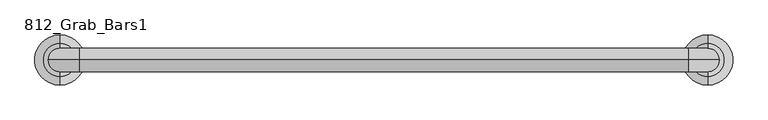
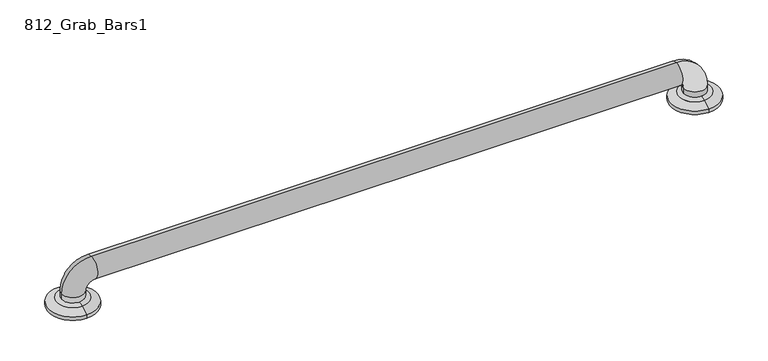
"""IFC4 building model written with IfcOpenShell, lengths in millimetres: proxy geometry, 812_Grab_Bars1 : 8122-001420."""

from ifc_helpers import new_model, si_unit, point, frame, origin, place, context, project, spatial, polyline, circle_curve, ellipse_curve, trimmed, source, transform, mapped, element, save
from ifc_brep_helpers import plane_surface, cylinder_surface, revolved_surface, advanced_brep


def proxy_812_grab_bars1_ef4de83a(model_context):
    return source(origin(), model_context, "Body", "AdvancedBrep", [
        advanced_brep(
        [(-477.8375, 564.1630987, 13.1934507), (-477.8375, 577.85, 6.35), (-477.8375, 495.3, 6.35), (-477.8375, 508.9869013, 13.1934507), (-477.8375, 517.525, 15.7178454), (-496.8875, 536.575, 15.7178454), (-477.8375, 555.625, 15.7178454), (-458.7875, 536.575, 15.7178454), (-477.8375, 577.85, 0.0), (-477.8375, 555.625, 0.0), (-477.8375, 536.575, 0.0), (-477.8375, 517.525, 0.0), (-477.8375, 495.3, 0.0), (-496.8875, 536.575, 25.4), (-458.7875, 536.575, 25.4), (-446.0875, 536.575, 38.1), (-446.0875, 536.575, 76.2), (557.2125, 536.575, 38.1), (557.2125, 536.575, 76.2), (569.9125, 536.575, 25.4), (608.0125, 536.575, 25.4), (588.9625, 577.85, 0.0), (588.9625, 495.3, 0.0), (569.9125, 536.575, 15.7178454), (588.9625, 517.525, 15.7178454), (608.0125, 536.575, 15.7178454), (588.9625, 555.625, 15.7178454), (588.9625, 564.1630987, 13.1934507), (588.9625, 577.85, 6.35), (588.9625, 495.3, 6.35), (588.9625, 508.9869013, 13.1934507)],
        [
            (0, 1),
            (1, 2, circle_curve(frame((-477.8375, 536.575, 6.35), z_axis=(0.0, 0.0, 1.0), x_axis=(0.0, -1.0, 0.0)), 41.275)),
            (2, 3),
            (3, 0, circle_curve(frame((-477.8375, 536.575, 13.1934507), z_axis=(0.0, 0.0, -1.0), x_axis=(0.0, -1.0, 0.0)), 27.5880987)),
            (2, 1, circle_curve(frame((-477.8375, 536.575, 6.35), z_axis=(0.0, 0.0, 1.0), x_axis=(0.0, -1.0, 0.0)), 41.275)),
            (0, 3, circle_curve(frame((-477.8375, 536.575, 13.1934507), z_axis=(0.0, 0.0, -1.0), x_axis=(0.0, -1.0, 0.0)), 27.5880987)),
            (3, 4, circle_curve(frame((-477.8375, 520.3461266, -9.525), z_axis=(-1.0, 0.0, 0.0), x_axis=(0.0, 0.0, -1.0)), 25.4)),
            (4, 5, circle_curve(frame((-477.8375, 536.575, 15.7178454), z_axis=(0.0, 0.0, -1.0), x_axis=(0.0, -1.0, 0.0)), 19.05)),
            (5, 6, circle_curve(frame((-477.8375, 536.575, 15.7178454), z_axis=(0.0, 0.0, -1.0), x_axis=(0.0, -1.0, 0.0)), 19.05)),
            (6, 0, circle_curve(frame((-477.8375, 552.8038734, -9.525), z_axis=(-1.0, 0.0, 0.0), x_axis=(0.0, 0.0, -1.0)), 25.4)),
            (6, 7, circle_curve(frame((-477.8375, 536.575, 15.7178454), z_axis=(0.0, 0.0, -1.0), x_axis=(0.0, -1.0, 0.0)), 19.05)),
            (7, 4, circle_curve(frame((-477.8375, 536.575, 15.7178454), z_axis=(0.0, 0.0, -1.0), x_axis=(0.0, -1.0, 0.0)), 19.05)),
            (8, 9),
            (9, 10),
            (10, 11),
            (11, 12),
            (12, 8, circle_curve(frame((-477.8375, 536.575, 0.0), z_axis=(0.0, 0.0, -1.0), x_axis=(0.0, -1.0, 0.0)), 41.275)),
            (8, 12, circle_curve(frame((-477.8375, 536.575, 0.0), z_axis=(0.0, 0.0, -1.0), x_axis=(0.0, -1.0, 0.0)), 41.275)),
            (1, 8),
            (12, 2),
            (13, 5),
            (7, 14),
            (14, 13, circle_curve(frame((-477.8375, 536.575, 25.4), z_axis=(0.0, 0.0, -1.0), x_axis=(1.0, 0.0, 0.0)), 19.05)),
            (13, 14, circle_curve(frame((-477.8375, 536.575, 25.4), z_axis=(0.0, 0.0, -1.0), x_axis=(1.0, 0.0, 0.0)), 19.05)),
            (14, 15, circle_curve(frame((-446.0875, 536.575, 25.4), z_axis=(0.0, 1.0, 0.0), x_axis=(-1.0, 0.0, 0.0)), 12.7)),
            (15, 16, circle_curve(frame((-446.0875, 536.575, 57.15), z_axis=(-1.0, 0.0, 0.0), x_axis=(0.0, 0.0, -1.0)), 19.05)),
            (16, 13, circle_curve(frame((-446.0875, 536.575, 25.4), z_axis=(0.0, -1.0, 0.0), x_axis=(-1.0, 0.0, 0.0)), 50.8)),
            (16, 15, circle_curve(frame((-446.0875, 536.575, 57.15), z_axis=(-1.0, 0.0, 0.0), x_axis=(0.0, 0.0, -1.0)), 19.05)),
            (15, 17),
            (17, 18, circle_curve(frame((557.2125, 536.575, 57.15), z_axis=(-1.0, 0.0, 0.0), x_axis=(0.0, 0.0, -1.0)), 19.05)),
            (18, 16),
            (18, 17, circle_curve(frame((557.2125, 536.575, 57.15), z_axis=(-1.0, 0.0, 0.0), x_axis=(0.0, 0.0, -1.0)), 19.05)),
            (17, 19, circle_curve(frame((557.2125, 536.575, 25.4), z_axis=(0.0, 1.0, 0.0), x_axis=(0.0, 0.0, 1.0)), 12.7)),
            (19, 20, circle_curve(frame((588.9625, 536.575, 25.4), z_axis=(0.0, 0.0, 1.0), x_axis=(-1.0, 0.0, 0.0)), 19.05)),
            (20, 18, circle_curve(frame((557.2125, 536.575, 25.4), z_axis=(0.0, -1.0, 0.0), x_axis=(0.0, 0.0, 1.0)), 50.8)),
            (20, 19, circle_curve(frame((588.9625, 536.575, 25.4), z_axis=(0.0, 0.0, 1.0), x_axis=(-1.0, 0.0, 0.0)), 19.05)),
            (21, 22, circle_curve(frame((588.9625, 536.575, 0.0), z_axis=(0.0, 0.0, -1.0), x_axis=(0.0, -1.0, 0.0)), 41.275)),
            (22, 21, circle_curve(frame((588.9625, 536.575, 0.0), z_axis=(0.0, 0.0, -1.0), x_axis=(0.0, -1.0, 0.0)), 41.275)),
            (19, 23),
            (23, 24, circle_curve(frame((588.9625, 536.575, 15.7178454), z_axis=(0.0, 0.0, 1.0), x_axis=(-1.0, 0.0, 0.0)), 19.05)),
            (24, 25, circle_curve(frame((588.9625, 536.575, 15.7178454), z_axis=(0.0, 0.0, 1.0), x_axis=(-1.0, 0.0, 0.0)), 19.05)),
            (25, 20),
            (25, 26, circle_curve(frame((588.9625, 536.575, 15.7178454), z_axis=(0.0, 0.0, 1.0), x_axis=(-1.0, 0.0, 0.0)), 19.05)),
            (26, 23, circle_curve(frame((588.9625, 536.575, 15.7178454), z_axis=(0.0, 0.0, 1.0), x_axis=(-1.0, 0.0, 0.0)), 19.05)),
            (27, 28),
            (28, 29, circle_curve(frame((588.9625, 536.575, 6.35), z_axis=(0.0, 0.0, 1.0), x_axis=(0.0, -1.0, 0.0)), 41.275)),
            (29, 30),
            (30, 27, circle_curve(frame((588.9625, 536.575, 13.1934507), z_axis=(0.0, 0.0, -1.0), x_axis=(0.0, -1.0, 0.0)), 27.5880987)),
            (29, 28, circle_curve(frame((588.9625, 536.575, 6.35), z_axis=(0.0, 0.0, 1.0), x_axis=(0.0, -1.0, 0.0)), 41.275)),
            (27, 30, circle_curve(frame((588.9625, 536.575, 13.1934507), z_axis=(0.0, 0.0, -1.0), x_axis=(0.0, -1.0, 0.0)), 27.5880987)),
            (30, 24, circle_curve(frame((588.9625, 520.3461266, -9.525), z_axis=(-1.0, 0.0, 0.0), x_axis=(0.0, 0.0, -1.0)), 25.4)),
            (26, 27, circle_curve(frame((588.9625, 552.8038734, -9.525), z_axis=(-1.0, 0.0, 0.0), x_axis=(0.0, 0.0, -1.0)), 25.4)),
            (28, 21),
            (22, 29),
        ],
        [
            revolved_surface(polyline([(-477.8375, 495.3, 6.35), (-477.8375, 508.9869013, 13.1934507)]), (-477.8375, 536.575, 31.75), (0.0, 0.0, 1.0)),
            revolved_surface(trimmed(ellipse_curve(frame((-477.8375, 520.3461266, -9.525), z_axis=(-1.0, 0.0, 0.0), x_axis=(0.0, 0.0, -1.0)), 25.4, 25.4), [point((-477.8375, 508.9869013, 13.1934507))], [point((-477.8375, 520.3461266, 15.875))], True, "CARTESIAN"), (-477.8375, 536.575, 31.75), (0.0, 0.0, 1.0)),
            plane_surface(frame((-477.8375, 536.575, 0.0), z_axis=(0.0, 0.0, -1.0), x_axis=(0.0, -1.0, 0.0))),
            cylinder_surface(frame((-477.8375, 536.575, 31.75), z_axis=(0.0, 0.0, 1.0), x_axis=(0.0, -1.0, 0.0)), 41.275),
            cylinder_surface(frame((-477.8375, 536.575, 0.0), z_axis=(0.0, 0.0, -1.0), x_axis=(1.0, 0.0, 0.0)), 19.05),
            revolved_surface(trimmed(ellipse_curve(frame((-477.8375, 536.575, 25.4), z_axis=(0.0, 0.0, 1.0), x_axis=(1.0, 0.0, 0.0)), 19.05, 19.05), [point((-496.8875, 536.575, 25.4))], [point((-458.7875, 536.575, 25.4))], True, "CARTESIAN"), (-446.0875, 536.575, 25.4), (0.0, -1.0, 0.0)),
            revolved_surface(trimmed(ellipse_curve(frame((-477.8375, 536.575, 25.4), z_axis=(0.0, 0.0, 1.0), x_axis=(1.0, 0.0, 0.0)), 19.05, 19.05), [point((-458.7875, 536.575, 25.4))], [point((-496.8875, 536.575, 25.4))], True, "CARTESIAN"), (-446.0875, 536.575, 25.4), (0.0, -1.0, 0.0)),
            cylinder_surface(frame((-446.0875, 536.575, 57.15), z_axis=(-1.0, 0.0, 0.0), x_axis=(0.0, 0.0, -1.0)), 19.05),
            revolved_surface(trimmed(ellipse_curve(frame((557.2125, 536.575, 57.15), z_axis=(1.0, 0.0, 0.0), x_axis=(0.0, 0.0, -1.0)), 19.05, 19.05), [point((557.2125, 536.575, 76.2))], [point((557.2125, 536.575, 38.1))], True, "CARTESIAN"), (557.2125, 536.575, 25.4), (0.0, -1.0, 0.0)),
            revolved_surface(trimmed(ellipse_curve(frame((557.2125, 536.575, 57.15), z_axis=(1.0, 0.0, 0.0), x_axis=(0.0, 0.0, -1.0)), 19.05, 19.05), [point((557.2125, 536.575, 38.1))], [point((557.2125, 536.575, 76.2))], True, "CARTESIAN"), (557.2125, 536.575, 25.4), (0.0, -1.0, 0.0)),
            plane_surface(frame((588.9625, 536.575, 0.0), z_axis=(0.0, 0.0, -1.0), x_axis=(0.0, -1.0, 0.0))),
            cylinder_surface(frame((588.9625, 536.575, 25.4), z_axis=(0.0, 0.0, 1.0), x_axis=(-1.0, 0.0, 0.0)), 19.05),
            revolved_surface(polyline([(588.9625, 495.3, 6.35), (588.9625, 508.9869013, 13.1934507)]), (588.9625, 536.575, -29.0642853), (0.0, 0.0, 1.0)),
            revolved_surface(trimmed(ellipse_curve(frame((588.9625, 520.3461266, -9.525), z_axis=(-1.0, 0.0, 0.0), x_axis=(0.0, 0.0, -1.0)), 25.4, 25.4), [point((588.9625, 508.9869013, 13.1934507))], [point((588.9625, 520.3461266, 15.875))], True, "CARTESIAN"), (588.9625, 536.575, -29.0642853), (0.0, 0.0, 1.0)),
            cylinder_surface(frame((588.9625, 536.575, -29.0642853), z_axis=(0.0, 0.0, 1.0), x_axis=(0.0, -1.0, 0.0)), 41.275),
        ],
        [
            (0, [[1, 2, 3, 4]]),
            (0, [[5, -1, 6, -3]]),
            (1, [[7, 8, 9, 10, -4]]),
            (1, [[-10, 11, 12, -7, -6]]),
            (2, [[13, 14, 15, 16, 17]]),
            (2, [[-16, -15, -14, -13, 18]]),
            (3, [[19, -17, 20, -2]]),
            (3, [[-20, -18, -19, -5]]),
            (4, [[21, -8, -12, 22, 23]]),
            (4, [[-22, -11, -9, -21, 24]]),
            (5, [[25, 26, 27, -23]]),
            (6, [[-27, 28, -25, -24]]),
            (7, [[29, 30, 31, -26]]),
            (7, [[-31, 32, -29, -28]]),
            (8, [[33, 34, 35, -30]]),
            (9, [[-35, 36, -33, -32]]),
            (10, [[37, 38]]),
            (11, [[39, 40, 41, 42, -34]]),
            (11, [[-42, 43, 44, -39, -36]]),
            (12, [[45, 46, 47, 48]]),
            (12, [[49, -45, 50, -47]]),
            (13, [[51, -40, -44, 52, -48]]),
            (13, [[-52, -43, -41, -51, -50]]),
            (14, [[53, -38, 54, -46]]),
            (14, [[-54, -37, -53, -49]]),
        ],
    ),
    ])


if __name__ == "__main__":
    model = new_model("IFC4")
    model_context = context("Model", 3, world=origin())
    ifc_project = project(units=[si_unit("LENGTHUNIT", "METRE", prefix="MILLI")], contexts=[model_context])
    site = spatial("IfcSite", under=ifc_project)
    building = spatial("IfcBuilding", under=site)
    placement = place(None, origin())
    proxy_812_grab_bars1_shape = proxy_812_grab_bars1_ef4de83a(model_context)
    element("IfcBuildingElementProxy", 1, Name="812_Grab_Bars1 : 8122-001420", ObjectType="812_Grab_Bars1 : 8122-001420", at=placement, inside=building, context=model_context, shape_type="MappedRepresentation", body=[
        mapped(proxy_812_grab_bars1_shape, transform((0.0, 0.0, 0.0), x_axis=(1.0, 0.0, 0.0), y_axis=(0.0, 1.0, 0.0), z_axis=(0.0, 0.0, 1.0))),
    ])
    save(model, "model.ifc")
